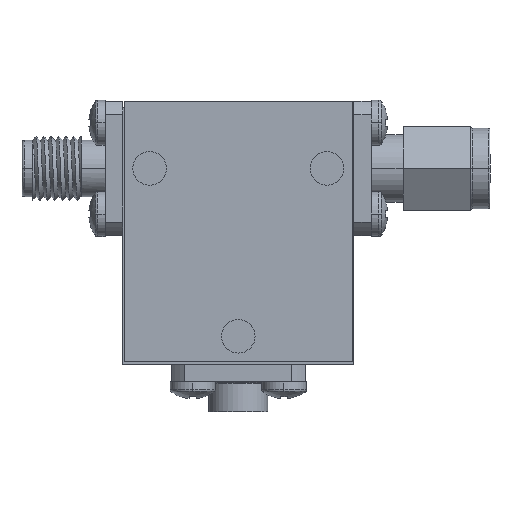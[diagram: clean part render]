
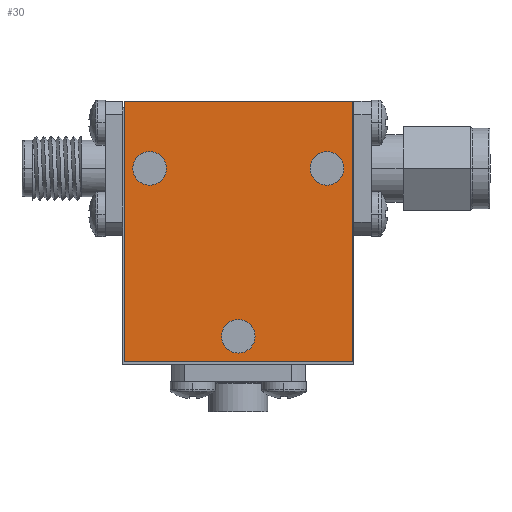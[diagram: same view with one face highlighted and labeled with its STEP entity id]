
A CAD part, top view. The second image highlights one B-rep face of the part: STEP entity #30.
In plain terms, the highlighted planar face has unit normal (0, 0, 1).
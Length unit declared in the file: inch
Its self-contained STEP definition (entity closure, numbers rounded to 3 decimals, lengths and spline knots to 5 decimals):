
#12 = CARTESIAN_POINT ( 'NONE',  ( -0.41675, -0.4725, 0.52168 ) ) ;
#30 = ADVANCED_FACE ( 'NONE', ( #4546, #4722, #3675, #6232 ), #4859, .F. ) ;
#35 = ORIENTED_EDGE ( 'NONE', *, *, #2048, .T. ) ;
#398 = VERTEX_POINT ( 'NONE', #3117 ) ;
#406 = ORIENTED_EDGE ( 'NONE', *, *, #2722, .F. ) ;
#537 = ORIENTED_EDGE ( 'NONE', *, *, #3262, .F. ) ;
#721 = ORIENTED_EDGE ( 'NONE', *, *, #3170, .F. ) ;
#867 = EDGE_CURVE ( 'NONE', #6178, #5811, #3828, .T. ) ;
#871 = CARTESIAN_POINT ( 'NONE',  ( 0.00825, -0.315, 0.52168 ) ) ;
#908 = LINE ( 'NONE', #5137, #1726 ) ;
#998 = DIRECTION ( 'NONE',  ( 0., -1., 0. ) ) ;
#1185 = VECTOR ( 'NONE', #6200, 39.37008 ) ;
#1218 = CARTESIAN_POINT ( 'NONE',  ( -0.32175, 0.2475, 0.52168 ) ) ;
#1428 = DIRECTION ( 'NONE',  ( 0., 0., 1. ) ) ;
#1430 = ORIENTED_EDGE ( 'NONE', *, *, #2413, .T. ) ;
#1436 = VERTEX_POINT ( 'NONE', #871 ) ;
#1506 = CARTESIAN_POINT ( 'NONE',  ( 0.00825, -0.44, 0.52168 ) ) ;
#1537 = DIRECTION ( 'NONE',  ( 0., -1., 0. ) ) ;
#1544 = ORIENTED_EDGE ( 'NONE', *, *, #5327, .F. ) ;
#1638 = DIRECTION ( 'NONE',  ( 0., 0., 1. ) ) ;
#1726 = VECTOR ( 'NONE', #998, 39.37008 ) ;
#1741 = CARTESIAN_POINT ( 'NONE',  ( 0.00825, -0.3775, 0.52168 ) ) ;
#1742 = LINE ( 'NONE', #2837, #2777 ) ;
#1758 = VERTEX_POINT ( 'NONE', #1506 ) ;
#1894 = DIRECTION ( 'NONE',  ( 0., 0., 1. ) ) ;
#1970 = CARTESIAN_POINT ( 'NONE',  ( -0.32175, 0.2475, 0.52168 ) ) ;
#1994 = DIRECTION ( 'NONE',  ( 0., -1., 0. ) ) ;
#2048 = EDGE_CURVE ( 'NONE', #2910, #5364, #1742, .T. ) ;
#2100 = ORIENTED_EDGE ( 'NONE', *, *, #5115, .F. ) ;
#2148 = CARTESIAN_POINT ( 'NONE',  ( 0.33825, 0.2475, 0.52168 ) ) ;
#2413 = EDGE_CURVE ( 'NONE', #5364, #5811, #3579, .T. ) ;
#2535 = VECTOR ( 'NONE', #1994, 39.37008 ) ;
#2647 = CARTESIAN_POINT ( 'NONE',  ( 0.43325, 0.4975, 0.52168 ) ) ;
#2691 = AXIS2_PLACEMENT_3D ( 'NONE', #3943, #1428, #5013 ) ;
#2722 = EDGE_CURVE ( 'NONE', #1436, #1758, #4945, .T. ) ;
#2777 = VECTOR ( 'NONE', #6415, 39.37008 ) ;
#2837 = CARTESIAN_POINT ( 'NONE',  ( 0.43325, 0.4975, 0.52168 ) ) ;
#2910 = VERTEX_POINT ( 'NONE', #2647 ) ;
#3117 = CARTESIAN_POINT ( 'NONE',  ( -0.32175, 0.31, 0.52168 ) ) ;
#3170 = EDGE_CURVE ( 'NONE', #1758, #1436, #4862, .T. ) ;
#3172 = DIRECTION ( 'NONE',  ( 0., 0., 1. ) ) ;
#3256 = ORIENTED_EDGE ( 'NONE', *, *, #4992, .F. ) ;
#3262 = EDGE_CURVE ( 'NONE', #4295, #398, #5014, .T. ) ;
#3283 = DIRECTION ( 'NONE',  ( 0., -1., 0. ) ) ;
#3579 = LINE ( 'NONE', #6054, #2535 ) ;
#3656 = CARTESIAN_POINT ( 'NONE',  ( -0.41675, 0.4975, 0.52168 ) ) ;
#3675 = FACE_BOUND ( 'NONE', #5877, .T. ) ;
#3819 = EDGE_LOOP ( 'NONE', ( #721, #406 ) ) ;
#3828 = LINE ( 'NONE', #5194, #1185 ) ;
#3878 = DIRECTION ( 'NONE',  ( 0., 0., -1. ) ) ;
#3943 = CARTESIAN_POINT ( 'NONE',  ( 0.00825, -0.3775, 0.52168 ) ) ;
#4112 = CIRCLE ( 'NONE', #5351, 0.0625 ) ;
#4210 = AXIS2_PLACEMENT_3D ( 'NONE', #1218, #4269, #4780 ) ;
#4269 = DIRECTION ( 'NONE',  ( 0., 0., 1. ) ) ;
#4280 = CIRCLE ( 'NONE', #4210, 0.0625 ) ;
#4295 = VERTEX_POINT ( 'NONE', #6207 ) ;
#4332 = AXIS2_PLACEMENT_3D ( 'NONE', #2148, #1638, #5662 ) ;
#4479 = CARTESIAN_POINT ( 'NONE',  ( 0.33825, 0.185, 0.52168 ) ) ;
#4546 = FACE_BOUND ( 'NONE', #5428, .T. ) ;
#4722 = FACE_BOUND ( 'NONE', #3819, .T. ) ;
#4726 = DIRECTION ( 'NONE',  ( 0., -1., 0. ) ) ;
#4780 = DIRECTION ( 'NONE',  ( 0., -1., 0. ) ) ;
#4821 = CARTESIAN_POINT ( 'NONE',  ( 0.33825, 0.31, 0.52168 ) ) ;
#4859 = PLANE ( 'NONE',  #6607 ) ;
#4862 = CIRCLE ( 'NONE', #2691, 0.0625 ) ;
#4945 = CIRCLE ( 'NONE', #5344, 0.0625 ) ;
#4974 = VERTEX_POINT ( 'NONE', #4821 ) ;
#4990 = CIRCLE ( 'NONE', #4332, 0.0625 ) ;
#4992 = EDGE_CURVE ( 'NONE', #398, #4295, #4280, .T. ) ;
#5013 = DIRECTION ( 'NONE',  ( 0., -1., 0. ) ) ;
#5014 = CIRCLE ( 'NONE', #5848, 0.0625 ) ;
#5115 = EDGE_CURVE ( 'NONE', #4974, #5124, #4112, .T. ) ;
#5124 = VERTEX_POINT ( 'NONE', #4479 ) ;
#5137 = CARTESIAN_POINT ( 'NONE',  ( 0.43325, 0.4975, 0.52168 ) ) ;
#5194 = CARTESIAN_POINT ( 'NONE',  ( 0.43325, -0.4725, 0.52168 ) ) ;
#5327 = EDGE_CURVE ( 'NONE', #5124, #4974, #4990, .T. ) ;
#5344 = AXIS2_PLACEMENT_3D ( 'NONE', #1741, #3172, #4726 ) ;
#5351 = AXIS2_PLACEMENT_3D ( 'NONE', #5989, #1894, #3283 ) ;
#5364 = VERTEX_POINT ( 'NONE', #3656 ) ;
#5428 = EDGE_LOOP ( 'NONE', ( #1544, #2100 ) ) ;
#5429 = DIRECTION ( 'NONE',  ( 0., 1., 0. ) ) ;
#5591 = ORIENTED_EDGE ( 'NONE', *, *, #867, .F. ) ;
#5662 = DIRECTION ( 'NONE',  ( 0., -1., 0. ) ) ;
#5691 = CARTESIAN_POINT ( 'NONE',  ( 0.43325, -0.4725, 0.52168 ) ) ;
#5784 = EDGE_LOOP ( 'NONE', ( #1430, #5591, #5826, #35 ) ) ;
#5811 = VERTEX_POINT ( 'NONE', #12 ) ;
#5826 = ORIENTED_EDGE ( 'NONE', *, *, #5833, .F. ) ;
#5833 = EDGE_CURVE ( 'NONE', #2910, #6178, #908, .T. ) ;
#5848 = AXIS2_PLACEMENT_3D ( 'NONE', #1970, #6052, #1537 ) ;
#5877 = EDGE_LOOP ( 'NONE', ( #537, #3256 ) ) ;
#5989 = CARTESIAN_POINT ( 'NONE',  ( 0.33825, 0.2475, 0.52168 ) ) ;
#6052 = DIRECTION ( 'NONE',  ( 0., 0., 1. ) ) ;
#6054 = CARTESIAN_POINT ( 'NONE',  ( -0.41675, 0.4975, 0.52168 ) ) ;
#6178 = VERTEX_POINT ( 'NONE', #5691 ) ;
#6200 = DIRECTION ( 'NONE',  ( -1., 0., 0. ) ) ;
#6207 = CARTESIAN_POINT ( 'NONE',  ( -0.32175, 0.185, 0.52168 ) ) ;
#6232 = FACE_OUTER_BOUND ( 'NONE', #5784, .T. ) ;
#6387 = CARTESIAN_POINT ( 'NONE',  ( 0.43325, 0.4975, 0.52168 ) ) ;
#6415 = DIRECTION ( 'NONE',  ( -1., 0., 0. ) ) ;
#6607 = AXIS2_PLACEMENT_3D ( 'NONE', #6387, #3878, #5429 ) ;
